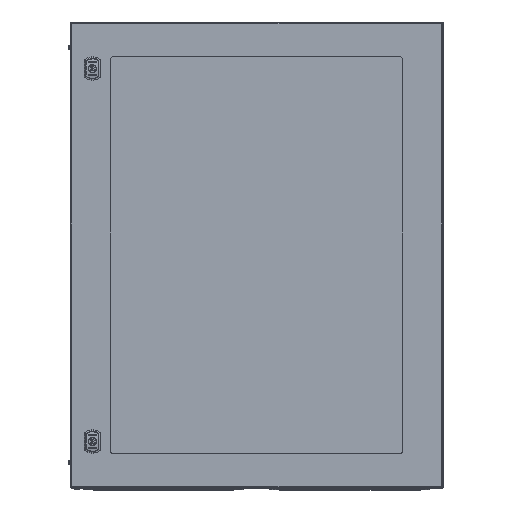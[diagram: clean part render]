
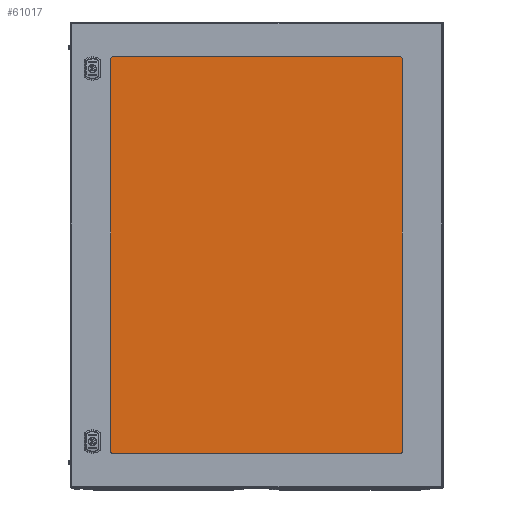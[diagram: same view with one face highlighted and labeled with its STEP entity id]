
A CAD part, top view. The second image highlights one B-rep face of the part: STEP entity #61017.
In plain terms, the highlighted planar face has unit normal (0, 0, 1) as drawn and (0, 0, -1) by its records, which use the part's own axes.
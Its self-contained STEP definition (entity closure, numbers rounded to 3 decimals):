
#276 = VECTOR ( 'NONE', #43310, 1000. ) ;
#2718 = ORIENTED_EDGE ( 'NONE', *, *, #117244, .F. ) ;
#3086 = EDGE_LOOP ( 'NONE', ( #89014, #2718, #110633, #123798 ) ) ;
#5530 = VECTOR ( 'NONE', #32088, 1000. ) ;
#11001 = CARTESIAN_POINT ( 'NONE',  ( -322.5, -435., 0. ) ) ;
#21535 = CARTESIAN_POINT ( 'NONE',  ( 322.5, -435., 0. ) ) ;
#23054 = AXIS2_PLACEMENT_3D ( 'NONE', #107808, #46544, #34982 ) ;
#28601 = EDGE_CURVE ( 'NONE', #55330, #57010, #43291, .T. ) ;
#30837 = VECTOR ( 'NONE', #37217, 1000. ) ;
#32088 = DIRECTION ( 'NONE',  ( 0., -1., 0. ) ) ;
#33075 = DIRECTION ( 'NONE',  ( -1., 0., 0. ) ) ;
#34982 = DIRECTION ( 'NONE',  ( -1., 0., 0. ) ) ;
#37217 = DIRECTION ( 'NONE',  ( 1., 0., 0. ) ) ;
#37804 = EDGE_CURVE ( 'NONE', #123313, #55330, #114104, .T. ) ;
#39202 = CARTESIAN_POINT ( 'NONE',  ( -322.5, -435., 0. ) ) ;
#43291 = LINE ( 'NONE', #84776, #56067 ) ;
#43310 = DIRECTION ( 'NONE',  ( 0., 1., 0. ) ) ;
#44260 = EDGE_CURVE ( 'NONE', #57010, #109293, #53844, .T. ) ;
#46544 = DIRECTION ( 'NONE',  ( 0., 0., -1. ) ) ;
#51711 = CARTESIAN_POINT ( 'NONE',  ( 322.5, 435., 0. ) ) ;
#53844 = LINE ( 'NONE', #11001, #5530 ) ;
#55330 = VERTEX_POINT ( 'NONE', #51711 ) ;
#56067 = VECTOR ( 'NONE', #33075, 1000. ) ;
#56730 = FACE_OUTER_BOUND ( 'NONE', #3086, .T. ) ;
#57010 = VERTEX_POINT ( 'NONE', #65690 ) ;
#61017 = ADVANCED_FACE ( 'NONE', ( #56730 ), #66281, .T. ) ;
#65690 = CARTESIAN_POINT ( 'NONE',  ( -322.5, 435., 0. ) ) ;
#66281 = PLANE ( 'NONE',  #23054 ) ;
#84776 = CARTESIAN_POINT ( 'NONE',  ( -322.5, 435., 0. ) ) ;
#89014 = ORIENTED_EDGE ( 'NONE', *, *, #37804, .F. ) ;
#94256 = CARTESIAN_POINT ( 'NONE',  ( 322.5, -435., 0. ) ) ;
#99193 = CARTESIAN_POINT ( 'NONE',  ( -322.5, -435., 0. ) ) ;
#107808 = CARTESIAN_POINT ( 'NONE',  ( 0., 0., 0. ) ) ;
#109293 = VERTEX_POINT ( 'NONE', #99193 ) ;
#110633 = ORIENTED_EDGE ( 'NONE', *, *, #44260, .F. ) ;
#110724 = LINE ( 'NONE', #39202, #30837 ) ;
#114104 = LINE ( 'NONE', #21535, #276 ) ;
#117244 = EDGE_CURVE ( 'NONE', #109293, #123313, #110724, .T. ) ;
#123313 = VERTEX_POINT ( 'NONE', #94256 ) ;
#123798 = ORIENTED_EDGE ( 'NONE', *, *, #28601, .F. ) ;
